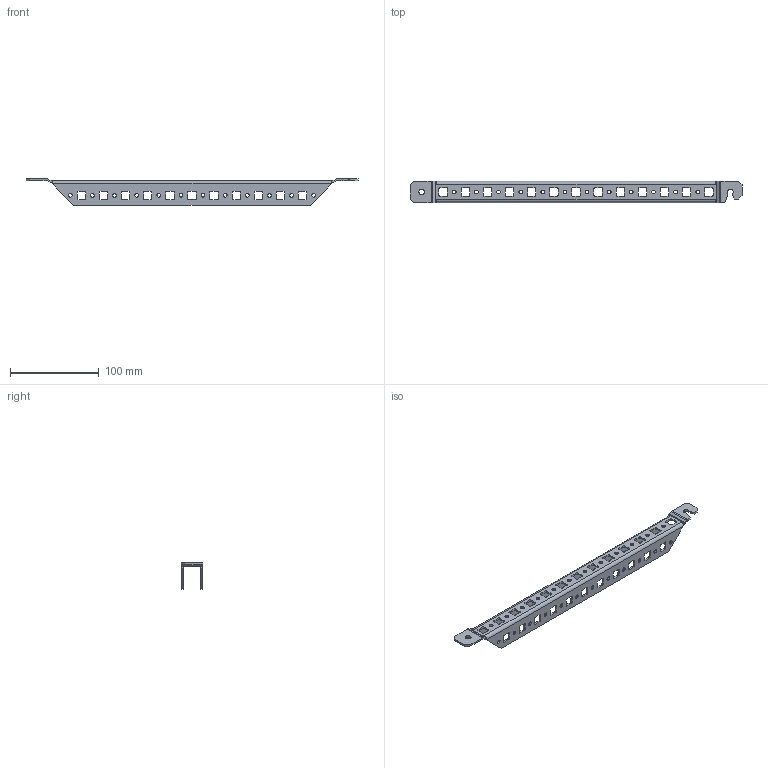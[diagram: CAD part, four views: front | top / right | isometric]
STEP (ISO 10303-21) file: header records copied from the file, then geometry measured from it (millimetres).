
FILE_DESCRIPTION (( 'STEP AP214' ), '1' );
FILE_NAME ('MG 40.03 Ðåéêà ìîíòàæíàÿ v2.STEP', '2018-06-20T09:53:46', ( '' ), ( '' ), 'SwSTEP 2.0', 'SolidWorks 2012', '' );
FILE_SCHEMA (( 'AUTOMOTIVE_DESIGN' ));
Length unit declared in the file: millimetre
Products named in the file (1): MG 40.03 Ðåéêà ìîíòàæíàÿ v2
Bounding box: 375 x 24 x 29.5 mm (x, y, z)
Volume: 38609.9 mm3; surface area: 43917.4 mm2
Topology: 1 solids, 1 shells, 432 faces, 1242 edges, 812 vertices
Faces by surface type: cylinder 229, plane 203
Entity records: 14562 total; most frequent: DIRECTION 2566, CARTESIAN_POINT 2487, ORIENTED_EDGE 2484, EDGE_CURVE 1242, AXIS2_PLACEMENT_3D 891, VERTEX_POINT 812, LINE 784, VECTOR 784
